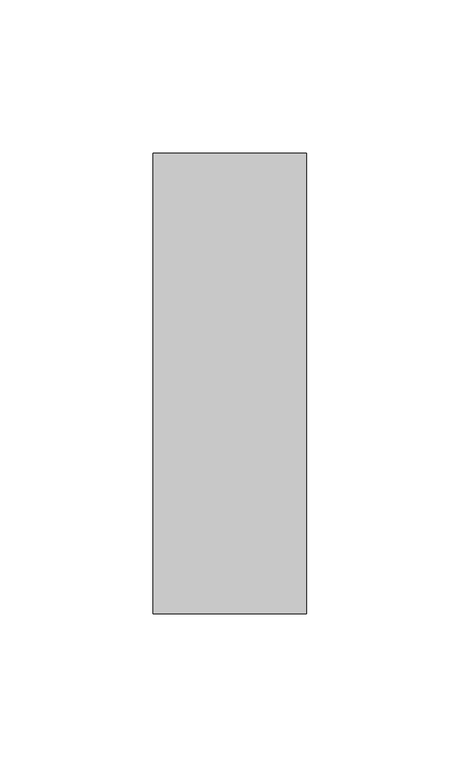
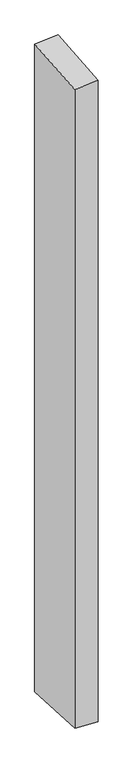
"""IFC4 building model written with IfcOpenShell, lengths in millimetres: member geometry, Прямоугольный импост : 50 x 150 мм."""

from ifc_helpers import new_model, si_unit, origin, place, context, project, spatial, faceted_brep, source, transform, mapped, element, save


def member_1f4def70(model_context):
    return source(origin(), model_context, "Body", "Brep", [
        faceted_brep([(-25.0, 75.0, 4.5076777), (25.0, 75.0, 7.908381), (25.0, 75.0, -1471.968305), (-25.0, 75.0, -1469.1225214), (-25.0, -75.0, -7.908381), (-25.0, -75.0, -1460.7286307), (25.0, -75.0, -4.5076777), (25.0, -75.0, -1463.5744143)], [[[0, 1, 2, 3]], [[4, 0, 3, 5]], [[6, 4, 5, 7]], [[1, 6, 7, 2]], [[1, 0, 4, 6]], [[2, 7, 5, 3]]]),
    ])


if __name__ == "__main__":
    model = new_model("IFC4")
    model_context = context("Model", 3, world=origin())
    ifc_project = project(units=[si_unit("LENGTHUNIT", "METRE", prefix="MILLI")], contexts=[model_context])
    site = spatial("IfcSite", under=ifc_project)
    building = spatial("IfcBuilding", under=site)
    placement = place(None, origin())
    member_shape = member_1f4def70(model_context)
    element("IfcMember", 1, ObjectType="Прямоугольный импост : 50 x 150 мм", at=placement, inside=building, context=model_context, shape_type="MappedRepresentation", body=[
        mapped(member_shape, transform((0.0, 0.0, 0.0), x_axis=(1.0, 0.0, 0.0), y_axis=(0.0, 1.0, 0.0), z_axis=(0.0, 0.0, 1.0))),
    ])
    save(model, "model.ifc")
